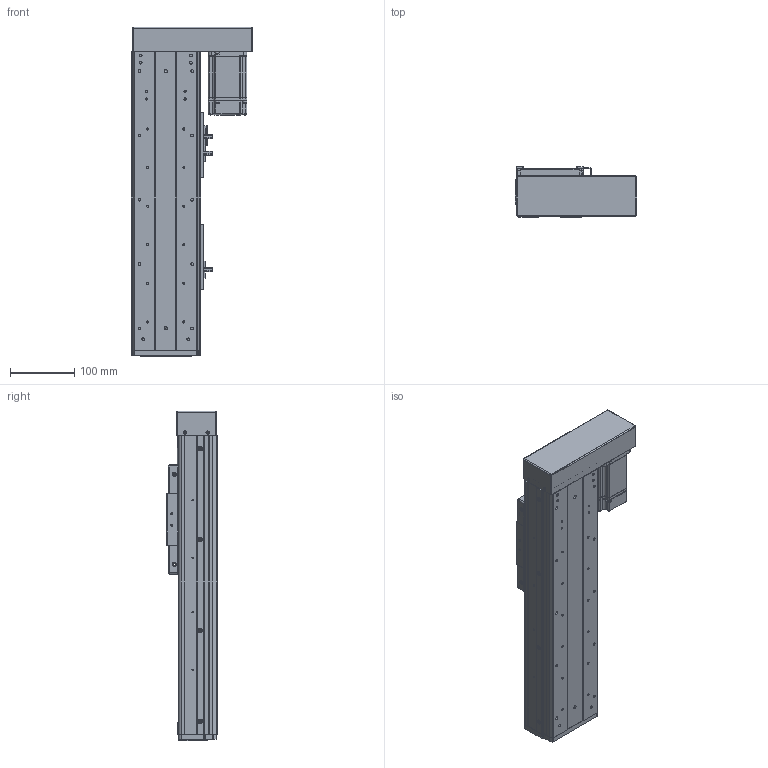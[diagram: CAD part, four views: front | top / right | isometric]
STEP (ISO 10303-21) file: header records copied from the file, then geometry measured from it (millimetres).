
FILE_DESCRIPTION (( 'STEP AP203' ), '1' );
FILE_NAME ('RY100FS-L1620-300-RK(15双轨).SLDASM_200.step', '2021-03-02T07:45:55', ( '盈信电脑' ), ( '东莞市道滘镇水果街19号' ), 'SwSTEP 2.0', 'SolidWorks 2012', '' );
FILE_SCHEMA (( 'CONFIG_CONTROL_DESIGN' ));
Length unit declared in the file: millimetre
Products named in the file (21): RY100FS-L1620-300-RK(15邧寢).SLDASM_200; RY100FS-15邧寢蛌殏萇儂欶; 蚥薯蝶紫輸; 滅袉蝶14-35; 1; RY100FS-15邧寢蛌殏萇儂啣; RY100FS-双轨螺母座(16丝杆）; RY100F-詩湍揤踡輸; 覜茼ん672; RY100FS-15邧寢蛌殏萇儂釱; 672嫖萇羲壽假蚾釱; RY100F-綴裔啣; RY80俋离覜茼え; RY100F-詩湍揤踡謫; 棠沺沭; RY100F-詩湍幗謫粣; RY100F-滅鳥裔啣; RY100FS-双轨铝滑块(上板）; RY100FS-300-RK15邧寢祥凄詩湍_200; RY100FS-300-RK15絳寢倰第奻裔啣_200; RY100FS-300-RK15絳寢倰第菁釱_200
Assembly tree (29 placements, depth 2):
  RY100FS-L1620-300-RK(15邧寢).SLDASM_200
    RY100FS-300-RK15絳寢倰第菁釱_200
    RY100FS-300-RK15絳寢倰第奻裔啣_200  x2
    RY100FS-300-RK15邧寢祥凄詩湍_200
    RY100FS-双轨铝滑块(上板）
    RY100F-滅鳥裔啣
    棠沺沭  x2
    RY100F-詩湍幗謫粣
    RY100F-詩湍揤踡謫  x2
    RY100F-綴裔啣
    672嫖萇羲壽假蚾釱  x2
    RY80俋离覜茼え  x2
    覜茼ん672  x3
    RY100F-詩湍揤踡輸  x2
    RY100FS-双轨螺母座(16丝杆）
    RY100FS-15邧寢蛌殏萇儂釱
    滅袉蝶14-35
    1
    RY100FS-15邧寢蛌殏萇儂啣
    RY100FS-15邧寢蛌殏萇儂欶
    蚥薯蝶紫輸  x2
Bounding box: 189.5 x 78.5 x 512 mm (x, y, z)
Volume: 1669296.9 mm3; surface area: 677352.8 mm2
Topology: 29 solids, 29 shells, 2154 faces, 5791 edges, 3732 vertices
Faces by surface type: plane 1015, cylinder 938, cone 168, bspline 33
Entity records: 60344 total; most frequent: CARTESIAN_POINT 12143, DIRECTION 9662, ORIENTED_EDGE 9390, EDGE_CURVE 4695, AXIS2_PLACEMENT_3D 3410, VERTEX_POINT 3080, LINE 2842, VECTOR 2842
